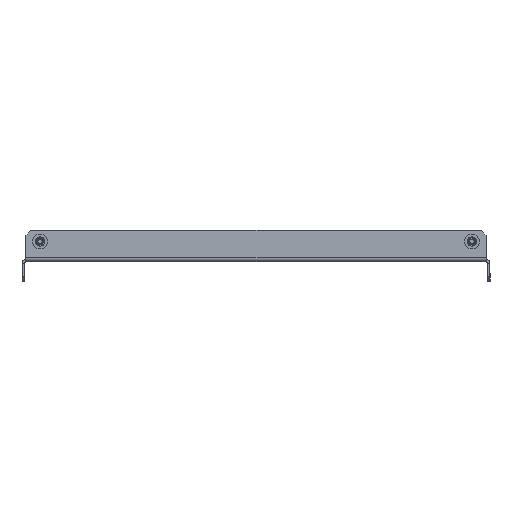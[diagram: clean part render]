
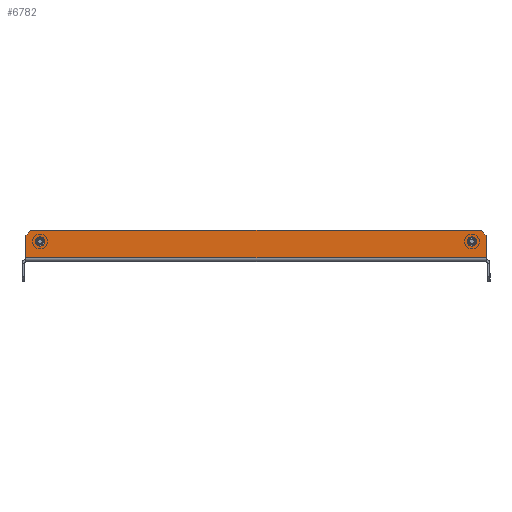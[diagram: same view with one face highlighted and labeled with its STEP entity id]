
A CAD part, left-side view. The second image highlights one B-rep face of the part: STEP entity #6782.
In plain terms, the highlighted planar face has unit normal (-1, 0, 0).
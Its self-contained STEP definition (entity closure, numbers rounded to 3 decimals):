
#111 = EDGE_CURVE ( 'NONE', #13043, #15319, #14907, .T. ) ;
#226 = CARTESIAN_POINT ( 'NONE',  ( -249., 137.5, 14.5 ) ) ;
#668 = VERTEX_POINT ( 'NONE', #15238 ) ;
#807 = AXIS2_PLACEMENT_3D ( 'NONE', #18076, #6070, #7616 ) ;
#945 = CARTESIAN_POINT ( 'NONE',  ( -249., 137.5, 8.5 ) ) ;
#1146 = FACE_OUTER_BOUND ( 'NONE', #4065, .T. ) ;
#1170 = CARTESIAN_POINT ( 'NONE',  ( -249., -137.5, 14.5 ) ) ;
#1213 = VERTEX_POINT ( 'NONE', #945 ) ;
#1544 = ORIENTED_EDGE ( 'NONE', *, *, #2882, .T. ) ;
#2465 = EDGE_CURVE ( 'NONE', #11965, #11147, #9212, .T. ) ;
#2510 = VERTEX_POINT ( 'NONE', #12945 ) ;
#2541 = CARTESIAN_POINT ( 'NONE',  ( -249., -146.5, 1. ) ) ;
#2616 = VERTEX_POINT ( 'NONE', #226 ) ;
#2660 = DIRECTION ( 'NONE',  ( 0., -1., 0. ) ) ;
#2882 = EDGE_CURVE ( 'NONE', #11147, #11965, #17206, .T. ) ;
#3077 = VECTOR ( 'NONE', #16179, 1000. ) ;
#3295 = ORIENTED_EDGE ( 'NONE', *, *, #11951, .T. ) ;
#3332 = CARTESIAN_POINT ( 'NONE',  ( -249., 146.5, 18.5 ) ) ;
#3757 = ORIENTED_EDGE ( 'NONE', *, *, #14807, .F. ) ;
#3953 = AXIS2_PLACEMENT_3D ( 'NONE', #9747, #4031, #17502 ) ;
#4021 = EDGE_CURVE ( 'NONE', #2616, #1213, #15677, .T. ) ;
#4031 = DIRECTION ( 'NONE',  ( 1., 0., 0. ) ) ;
#4042 = ORIENTED_EDGE ( 'NONE', *, *, #16604, .F. ) ;
#4065 = EDGE_LOOP ( 'NONE', ( #7041, #5959, #3757, #3295, #4042, #9613 ) ) ;
#4434 = DIRECTION ( 'NONE',  ( 0., 0., -1. ) ) ;
#4437 = CARTESIAN_POINT ( 'NONE',  ( -249., -81., 81. ) ) ;
#4747 = EDGE_LOOP ( 'NONE', ( #14611, #1544 ) ) ;
#5361 = DIRECTION ( 'NONE',  ( 0., 0., 1. ) ) ;
#5621 = DIRECTION ( 'NONE',  ( 0., 0., 1. ) ) ;
#5793 = VECTOR ( 'NONE', #13003, 1000. ) ;
#5873 = DIRECTION ( 'NONE',  ( 0., 0., 1. ) ) ;
#5875 = LINE ( 'NONE', #8481, #13163 ) ;
#5889 = ORIENTED_EDGE ( 'NONE', *, *, #16452, .F. ) ;
#5959 = ORIENTED_EDGE ( 'NONE', *, *, #111, .T. ) ;
#5981 = CARTESIAN_POINT ( 'NONE',  ( -249., -146.5, 15.5 ) ) ;
#6070 = DIRECTION ( 'NONE',  ( -1., 0., 0. ) ) ;
#6610 = EDGE_CURVE ( 'NONE', #13043, #18609, #17825, .T. ) ;
#6716 = AXIS2_PLACEMENT_3D ( 'NONE', #9724, #6734, #5361 ) ;
#6734 = DIRECTION ( 'NONE',  ( 1., 0., 0. ) ) ;
#6782 = ADVANCED_FACE ( 'NONE', ( #8525, #15995, #1146 ), #14337, .T. ) ;
#6980 = CARTESIAN_POINT ( 'NONE',  ( -249., 0., 0. ) ) ;
#7041 = ORIENTED_EDGE ( 'NONE', *, *, #6610, .F. ) ;
#7546 = VECTOR ( 'NONE', #14132, 1000. ) ;
#7616 = DIRECTION ( 'NONE',  ( 0., 0., 1. ) ) ;
#8438 = VECTOR ( 'NONE', #4434, 1000. ) ;
#8481 = CARTESIAN_POINT ( 'NONE',  ( -249., -146.5, 18.5 ) ) ;
#8525 = FACE_BOUND ( 'NONE', #4747, .T. ) ;
#8602 = CARTESIAN_POINT ( 'NONE',  ( -249., -143.5, 18.5 ) ) ;
#8739 = LINE ( 'NONE', #14847, #5793 ) ;
#9212 = CIRCLE ( 'NONE', #3953, 3. ) ;
#9613 = ORIENTED_EDGE ( 'NONE', *, *, #14119, .T. ) ;
#9724 = CARTESIAN_POINT ( 'NONE',  ( -249., -137.5, 11.5 ) ) ;
#9747 = CARTESIAN_POINT ( 'NONE',  ( -249., -137.5, 11.5 ) ) ;
#9874 = CARTESIAN_POINT ( 'NONE',  ( -249., 0., 1. ) ) ;
#10439 = CARTESIAN_POINT ( 'NONE',  ( -249., -137.5, 8.5 ) ) ;
#10743 = AXIS2_PLACEMENT_3D ( 'NONE', #13230, #19158, #5873 ) ;
#11147 = VERTEX_POINT ( 'NONE', #10439 ) ;
#11951 = EDGE_CURVE ( 'NONE', #17062, #668, #8739, .T. ) ;
#11965 = VERTEX_POINT ( 'NONE', #1170 ) ;
#12362 = EDGE_LOOP ( 'NONE', ( #16978, #5889 ) ) ;
#12458 = AXIS2_PLACEMENT_3D ( 'NONE', #6980, #12982, #5621 ) ;
#12945 = CARTESIAN_POINT ( 'NONE',  ( -249., 146.5, 1. ) ) ;
#12982 = DIRECTION ( 'NONE',  ( -1., 0., 0. ) ) ;
#13003 = DIRECTION ( 'NONE',  ( 0., 0.707, -0.707 ) ) ;
#13043 = VERTEX_POINT ( 'NONE', #5981 ) ;
#13163 = VECTOR ( 'NONE', #2660, 1000. ) ;
#13230 = CARTESIAN_POINT ( 'NONE',  ( -249., 137.5, 11.5 ) ) ;
#13239 = VECTOR ( 'NONE', #15536, 1000. ) ;
#13929 = LINE ( 'NONE', #9874, #7546 ) ;
#14119 = EDGE_CURVE ( 'NONE', #2510, #18609, #13929, .T. ) ;
#14132 = DIRECTION ( 'NONE',  ( 0., -1., 0. ) ) ;
#14337 = PLANE ( 'NONE',  #12458 ) ;
#14611 = ORIENTED_EDGE ( 'NONE', *, *, #2465, .T. ) ;
#14807 = EDGE_CURVE ( 'NONE', #17062, #15319, #5875, .T. ) ;
#14847 = CARTESIAN_POINT ( 'NONE',  ( -249., 81., 81. ) ) ;
#14907 = LINE ( 'NONE', #4437, #3077 ) ;
#15238 = CARTESIAN_POINT ( 'NONE',  ( -249., 146.5, 15.5 ) ) ;
#15319 = VERTEX_POINT ( 'NONE', #8602 ) ;
#15536 = DIRECTION ( 'NONE',  ( 0., 0., 1. ) ) ;
#15677 = CIRCLE ( 'NONE', #807, 3. ) ;
#15995 = FACE_BOUND ( 'NONE', #12362, .T. ) ;
#16179 = DIRECTION ( 'NONE',  ( 0., 0.707, 0.707 ) ) ;
#16452 = EDGE_CURVE ( 'NONE', #1213, #2616, #19124, .T. ) ;
#16604 = EDGE_CURVE ( 'NONE', #2510, #668, #16622, .T. ) ;
#16622 = LINE ( 'NONE', #3332, #13239 ) ;
#16693 = CARTESIAN_POINT ( 'NONE',  ( -249., 143.5, 18.5 ) ) ;
#16978 = ORIENTED_EDGE ( 'NONE', *, *, #4021, .F. ) ;
#17062 = VERTEX_POINT ( 'NONE', #16693 ) ;
#17206 = CIRCLE ( 'NONE', #6716, 3. ) ;
#17502 = DIRECTION ( 'NONE',  ( 0., 0., 1. ) ) ;
#17730 = CARTESIAN_POINT ( 'NONE',  ( -249., -146.5, 0. ) ) ;
#17825 = LINE ( 'NONE', #17730, #8438 ) ;
#18076 = CARTESIAN_POINT ( 'NONE',  ( -249., 137.5, 11.5 ) ) ;
#18609 = VERTEX_POINT ( 'NONE', #2541 ) ;
#19124 = CIRCLE ( 'NONE', #10743, 3. ) ;
#19158 = DIRECTION ( 'NONE',  ( -1., 0., 0. ) ) ;
